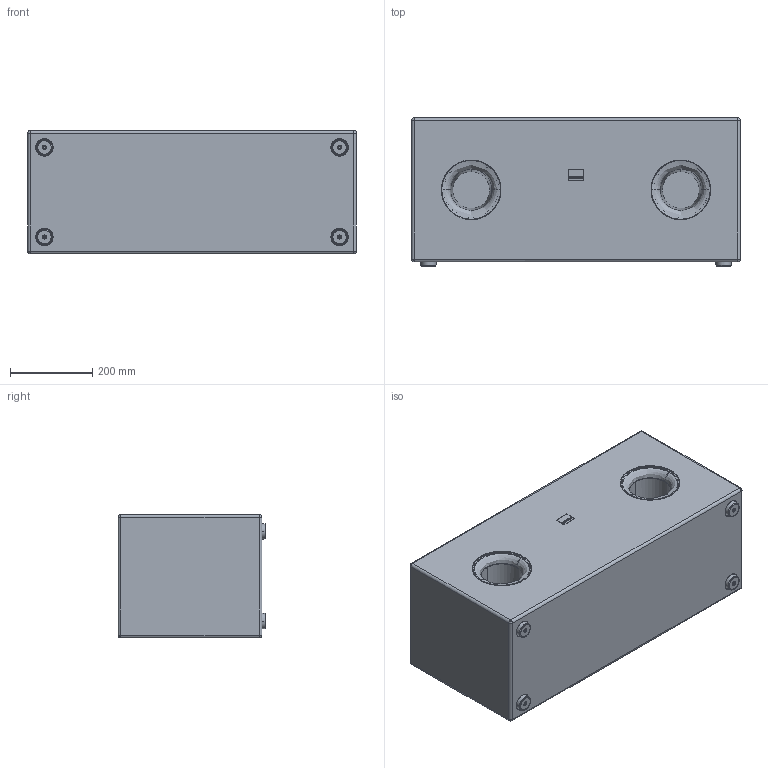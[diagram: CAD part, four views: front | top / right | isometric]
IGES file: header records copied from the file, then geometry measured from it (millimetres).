
Start section: SolidWorks IGES file using analytic representation for surfaces
Global section: file name: C:\Dokumente und Einstellungen\PC_Fabian\Desktop\3d_Dateien_Homepage\A-Serie\SEEBURG_A1-Sub.IGS; native system: SolidWorks 2009; preprocessor: SolidWorks 2009; author: PC_Fabian; date: 120927.151708; units: millimetre
Bounding box: 800 x 360 x 301.11 mm (x, y, z)
Surface area: 2590813.5 mm2 (no closed solid volume)
Topology: 0 solids, 0 shells, 539 faces, 6359 edges, 6355 vertices
Faces by surface type: revolution 290, bspline 249
